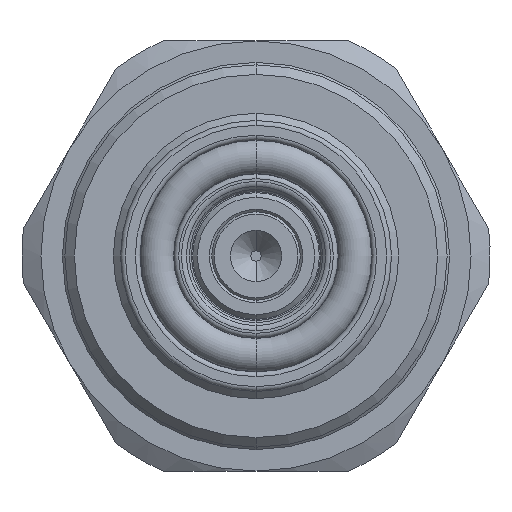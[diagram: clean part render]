
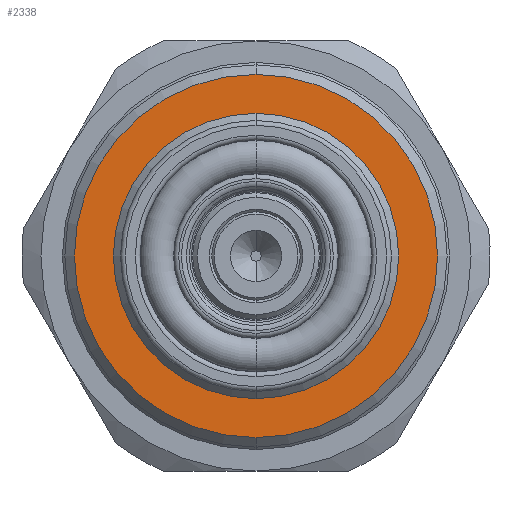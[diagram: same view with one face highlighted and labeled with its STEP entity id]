
A CAD part, left-side view. The second image highlights one B-rep face of the part: STEP entity #2338.
In plain terms, the highlighted planar face has unit normal (-1, 0, 0).
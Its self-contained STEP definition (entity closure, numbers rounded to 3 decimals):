
#116 = EDGE_CURVE ( 'NONE', #5252, #5257, #238, .T. ) ;
#117 = EDGE_CURVE ( 'NONE', #5257, #5252, #239, .T. ) ;
#119 = EDGE_CURVE ( 'NONE', #5240, #5248, #240, .T. ) ;
#121 = EDGE_CURVE ( 'NONE', #5248, #5240, #247, .T. ) ;
#238 = CIRCLE ( 'NONE', #242, 7.6 ) ;
#239 = CIRCLE ( 'NONE', #256, 7.6 ) ;
#240 = CIRCLE ( 'NONE', #243, 5.969 ) ;
#242 = AXIS2_PLACEMENT_3D ( 'NONE', #2865, #2871, #2856 ) ;
#243 = AXIS2_PLACEMENT_3D ( 'NONE', #2857, #2859, #2858 ) ;
#247 = CIRCLE ( 'NONE', #264, 5.969 ) ;
#256 = AXIS2_PLACEMENT_3D ( 'NONE', #2864, #2866, #2863 ) ;
#264 = AXIS2_PLACEMENT_3D ( 'NONE', #2887, #2892, #2879 ) ;
#582 = ORIENTED_EDGE ( 'NONE', *, *, #117, .F. ) ;
#829 = ORIENTED_EDGE ( 'NONE', *, *, #121, .T. ) ;
#883 = ORIENTED_EDGE ( 'NONE', *, *, #119, .T. ) ;
#893 = ORIENTED_EDGE ( 'NONE', *, *, #116, .F. ) ;
#1021 = CARTESIAN_POINT ( 'NONE',  ( -1.503, 0., 5.969 ) ) ;
#1026 = CARTESIAN_POINT ( 'NONE',  ( -1.503, 0., -5.969 ) ) ;
#1034 = CARTESIAN_POINT ( 'NONE',  ( -1.503, 0., -7.6 ) ) ;
#1070 = CARTESIAN_POINT ( 'NONE',  ( -1.503, 0., 7.6 ) ) ;
#1630 = EDGE_LOOP ( 'NONE', ( #829, #883 ) ) ;
#1631 = EDGE_LOOP ( 'NONE', ( #893, #582 ) ) ;
#2338 = ADVANCED_FACE ( 'NONE', ( #4700, #4712 ), #4704, .T. ) ;
#2856 = DIRECTION ( 'NONE',  ( 0., 0., -1. ) ) ;
#2857 = CARTESIAN_POINT ( 'NONE',  ( -1.503, 0., 0. ) ) ;
#2858 = DIRECTION ( 'NONE',  ( 0., 0., -1. ) ) ;
#2859 = DIRECTION ( 'NONE',  ( 1., 0., 0. ) ) ;
#2863 = DIRECTION ( 'NONE',  ( 0., 0., -1. ) ) ;
#2864 = CARTESIAN_POINT ( 'NONE',  ( -1.503, 0., 0. ) ) ;
#2865 = CARTESIAN_POINT ( 'NONE',  ( -1.503, 0., 0. ) ) ;
#2866 = DIRECTION ( 'NONE',  ( 1., 0., 0. ) ) ;
#2871 = DIRECTION ( 'NONE',  ( 1., 0., 0. ) ) ;
#2879 = DIRECTION ( 'NONE',  ( 0., 0., -1. ) ) ;
#2887 = CARTESIAN_POINT ( 'NONE',  ( -1.503, 0., 0. ) ) ;
#2892 = DIRECTION ( 'NONE',  ( 1., 0., 0. ) ) ;
#4217 = AXIS2_PLACEMENT_3D ( 'NONE', #4708, #4706, #4707 ) ;
#4700 = FACE_BOUND ( 'NONE', #1630, .T. ) ;
#4704 = PLANE ( 'NONE',  #4217 ) ;
#4706 = DIRECTION ( 'NONE',  ( -1., 0., 0. ) ) ;
#4707 = DIRECTION ( 'NONE',  ( 0., 0., 1. ) ) ;
#4708 = CARTESIAN_POINT ( 'NONE',  ( -1.503, 0., 0. ) ) ;
#4712 = FACE_OUTER_BOUND ( 'NONE', #1631, .T. ) ;
#5240 = VERTEX_POINT ( 'NONE', #1021 ) ;
#5248 = VERTEX_POINT ( 'NONE', #1026 ) ;
#5252 = VERTEX_POINT ( 'NONE', #1034 ) ;
#5257 = VERTEX_POINT ( 'NONE', #1070 ) ;
